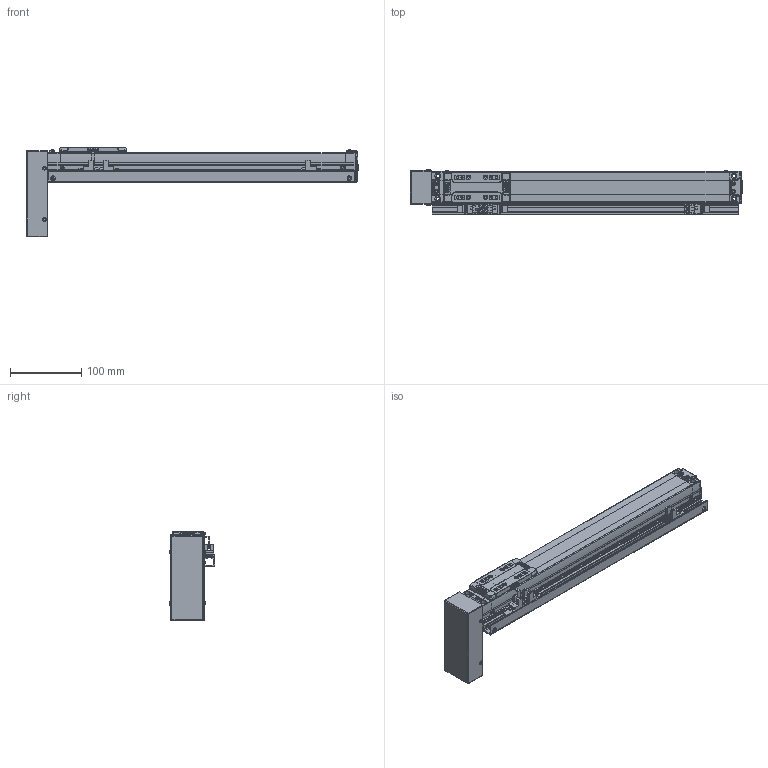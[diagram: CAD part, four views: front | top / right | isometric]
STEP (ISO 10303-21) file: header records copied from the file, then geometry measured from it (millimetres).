
FILE_DESCRIPTION(('STEP AP214'),'1');
FILE_NAME('Z:/Web/3D/SAN45/2013.ver/STP/SAN45ㅁㅁ-300PB+3SR.stp','2013-05-15T11:46:31',(' '),(' '),'Spatial InterOp 3D',' ',' ');
FILE_SCHEMA(('automotive_design'));
Length unit declared in the file: millimetre
Products named in the file (46): BODY-SAN45; REAR-SAN45; RRCV-SAN45; BHCS M3 x 6L; BHCS M3 X 6L; FRONT-SAN45; SHAFT; RN8 x 0.75; SSFX-SAN45; SLIDE-SAN45; SLCV-IM45; FHCS M3 x 6L; BTCV-SAN45; SRL-16x17-380L; EE-SX674; SBK-SX674-352; SDG-SA45; SCREW M3 x 5L
Bounding box: 466.15 x 64.06 x 126 mm (x, y, z)
Volume: 1007816.2 mm3; surface area: 209606.6 mm2
Topology: 46 solids, 46 shells, 2336 faces, 6035 edges, 3873 vertices
Faces by surface type: plane 1288, cylinder 732, cone 150, sphere 84, bspline 44, torus 32, extrusion 6
Entity records: 94592 total; most frequent: CARTESIAN_POINT 16863, DIRECTION 12557, ORIENTED_EDGE 11922, EDGE_CURVE 5961, AXIS2_PLACEMENT_3D 4386, VERTEX_POINT 3873, VECTOR 3785, LINE 3779
